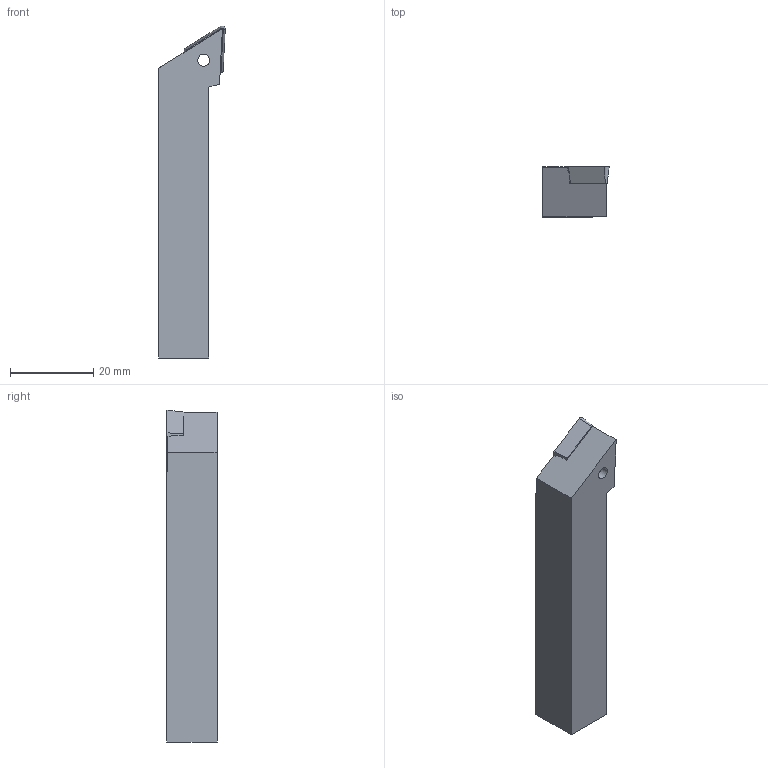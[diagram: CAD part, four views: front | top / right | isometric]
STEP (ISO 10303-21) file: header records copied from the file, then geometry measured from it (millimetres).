
FILE_DESCRIPTION(/* description */ (''),/* implementation_level */ '2;1');
FILE_NAME(/* name */ 'SDJCR1212-F11-HAAS_sldasm.stp',/* time_stamp */ '2021-09-29T10:31:15+09:00',/* author */ (''),/* organization */ (''),/* preprocessor_version */ 'ST-DEVELOPER v16.7',/* originating_system */ 'SIEMENS PLM Software NX 1946',/* authorisation */ '');
FILE_SCHEMA (('AP203_CONFIGURATION_CONTROLLED_3D_DESIGN_OF_MECHANICAL_PARTS_AND_ASSEMBLIES_MIM_LF { 1 0 10303 403 2 1 2}'));
Length unit declared in the file: millimetre
Products named in the file (1): user51A0C9E0695i
Bounding box: 15.96 x 12 x 79.65 mm (x, y, z)
Volume: 10788.4 mm3; surface area: 4451.7 mm2
Topology: 2 solids, 2 shells, 35 faces, 92 edges, 61 vertices
Faces by surface type: plane 29, cylinder 3, cone 3
Full cylindrical faces by diameter (mm): 2.9 x1, 6.2 x1
Entity records: 1146 total; most frequent: CARTESIAN_POINT 184, ORIENTED_EDGE 176, DIRECTION 172, EDGE_CURVE 88, LINE 76, VECTOR 76, VERTEX_POINT 60, AXIS2_PLACEMENT_3D 48
